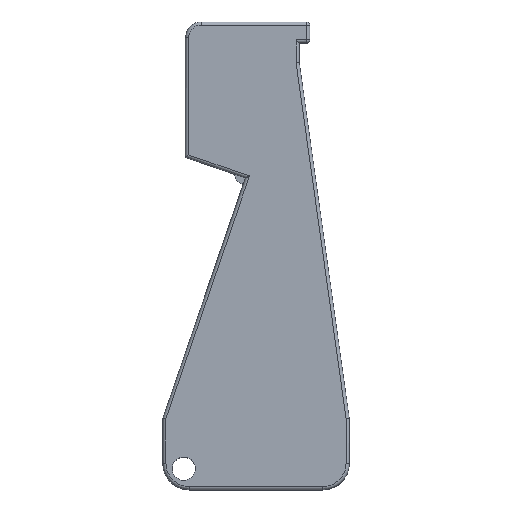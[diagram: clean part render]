
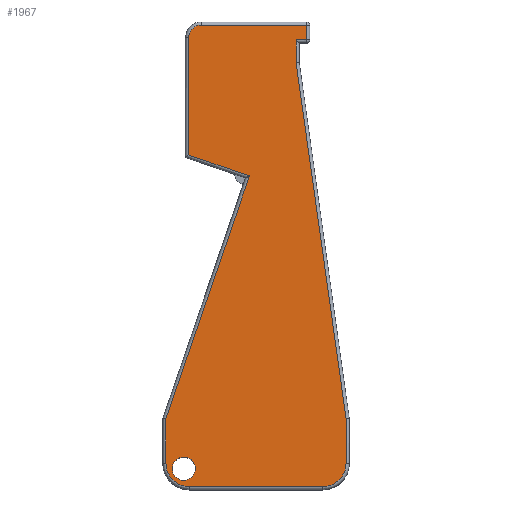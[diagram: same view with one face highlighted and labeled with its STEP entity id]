
A CAD part, top view. The second image highlights one B-rep face of the part: STEP entity #1967.
In plain terms, the highlighted planar face has unit normal (0, 0, 1).
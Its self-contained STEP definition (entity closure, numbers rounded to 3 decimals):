
#28=FACE_BOUND('',#312,.T.);
#45=CIRCLE('',#2107,2.2);
#49=CIRCLE('',#2113,2.2);
#53=CIRCLE('',#2125,1.2);
#60=CIRCLE('',#2145,1.1);
#109=PLANE('',#2144);
#196=FACE_OUTER_BOUND('',#311,.T.);
#311=EDGE_LOOP('',(#1517,#1518,#1519,#1520,#1521,#1522,#1523,#1524,#1525,
#1526,#1527,#1528,#1529,#1530));
#312=EDGE_LOOP('',(#1531));
#445=LINE('',#3011,#656);
#447=LINE('',#3020,#658);
#449=LINE('',#3030,#660);
#451=LINE('',#3042,#662);
#453=LINE('',#3051,#664);
#455=LINE('',#3057,#666);
#457=LINE('',#3060,#668);
#458=LINE('',#3063,#669);
#461=LINE('',#3072,#672);
#463=LINE('',#3084,#674);
#464=LINE('',#3088,#675);
#656=VECTOR('',#2384,10.);
#658=VECTOR('',#2392,10.);
#660=VECTOR('',#2402,10.);
#662=VECTOR('',#2416,10.);
#664=VECTOR('',#2428,10.);
#666=VECTOR('',#2434,10.);
#668=VECTOR('',#2438,10.);
#669=VECTOR('',#2441,10.);
#672=VECTOR('',#2450,10.);
#674=VECTOR('',#2464,10.);
#675=VECTOR('',#2469,10.);
#889=VERTEX_POINT('',#3008);
#890=VERTEX_POINT('',#3010);
#893=VERTEX_POINT('',#3017);
#894=VERTEX_POINT('',#3019);
#895=VERTEX_POINT('',#3023);
#898=VERTEX_POINT('',#3028);
#899=VERTEX_POINT('',#3032);
#901=VERTEX_POINT('',#3038);
#903=VERTEX_POINT('',#3044);
#906=VERTEX_POINT('',#3055);
#907=VERTEX_POINT('',#3062);
#909=VERTEX_POINT('',#3068);
#911=VERTEX_POINT('',#3074);
#913=VERTEX_POINT('',#3080);
#934=VERTEX_POINT('',#3149);
#1085=EDGE_CURVE('',#889,#890,#445,.T.);
#1089=EDGE_CURVE('',#893,#894,#447,.T.);
#1094=EDGE_CURVE('',#898,#895,#449,.T.);
#1097=EDGE_CURVE('',#895,#899,#45,.T.);
#1100=EDGE_CURVE('',#899,#901,#451,.T.);
#1103=EDGE_CURVE('',#901,#903,#49,.T.);
#1105=EDGE_CURVE('',#903,#893,#453,.T.);
#1108=EDGE_CURVE('',#906,#898,#455,.T.);
#1110=EDGE_CURVE('',#890,#906,#457,.T.);
#1111=EDGE_CURVE('',#894,#907,#458,.T.);
#1116=EDGE_CURVE('',#907,#909,#461,.T.);
#1119=EDGE_CURVE('',#909,#911,#53,.T.);
#1122=EDGE_CURVE('',#911,#913,#463,.T.);
#1124=EDGE_CURVE('',#913,#889,#464,.T.);
#1156=EDGE_CURVE('',#934,#934,#60,.T.);
#1517=ORIENTED_EDGE('',*,*,#1094,.F.);
#1518=ORIENTED_EDGE('',*,*,#1108,.F.);
#1519=ORIENTED_EDGE('',*,*,#1110,.F.);
#1520=ORIENTED_EDGE('',*,*,#1085,.F.);
#1521=ORIENTED_EDGE('',*,*,#1124,.F.);
#1522=ORIENTED_EDGE('',*,*,#1122,.F.);
#1523=ORIENTED_EDGE('',*,*,#1119,.F.);
#1524=ORIENTED_EDGE('',*,*,#1116,.F.);
#1525=ORIENTED_EDGE('',*,*,#1111,.F.);
#1526=ORIENTED_EDGE('',*,*,#1089,.F.);
#1527=ORIENTED_EDGE('',*,*,#1105,.F.);
#1528=ORIENTED_EDGE('',*,*,#1103,.F.);
#1529=ORIENTED_EDGE('',*,*,#1100,.F.);
#1530=ORIENTED_EDGE('',*,*,#1097,.F.);
#1531=ORIENTED_EDGE('',*,*,#1156,.T.);
#1967=ADVANCED_FACE('',(#196,#28),#109,.T.);
#2107=AXIS2_PLACEMENT_3D('',#3036,#2409,#2410);
#2113=AXIS2_PLACEMENT_3D('',#3048,#2423,#2424);
#2125=AXIS2_PLACEMENT_3D('',#3078,#2457,#2458);
#2144=AXIS2_PLACEMENT_3D('',#3148,#2525,#2526);
#2145=AXIS2_PLACEMENT_3D('',#3150,#2527,#2528);
#2384=DIRECTION('',(-1.,0.,0.));
#2392=DIRECTION('',(0.326,0.946,0.));
#2402=DIRECTION('',(0.,-1.,0.));
#2409=DIRECTION('center_axis',(0.,0.,
-1.));
#2410=DIRECTION('ref_axis',(0.707,-0.707,0.));
#2416=DIRECTION('',(-1.,0.,0.));
#2423=DIRECTION('center_axis',(0.,0.,
-1.));
#2424=DIRECTION('ref_axis',(-0.707,-0.707,0.));
#2428=DIRECTION('',(0.,1.,0.));
#2434=DIRECTION('',(0.139,-0.99,0.));
#2438=DIRECTION('',(0.,-1.,0.));
#2441=DIRECTION('',(-0.946,0.326,0.));
#2450=DIRECTION('',(0.,1.,0.));
#2457=DIRECTION('center_axis',(0.,0.,
-1.));
#2458=DIRECTION('ref_axis',(-0.707,0.707,0.));
#2464=DIRECTION('',(1.,0.,0.));
#2469=DIRECTION('',(0.,-1.,0.));
#2525=DIRECTION('center_axis',(0.,0.,
1.));
#2526=DIRECTION('ref_axis',(1.,0.,0.));
#2527=DIRECTION('center_axis',(0.,0.,
-1.));
#2528=DIRECTION('ref_axis',(-1.,0.,0.));
#3008=CARTESIAN_POINT('',(4.8,20.5,0.7));
#3010=CARTESIAN_POINT('',(3.8,20.5,0.7));
#3011=CARTESIAN_POINT('',(2.086,20.5,0.7));
#3017=CARTESIAN_POINT('',(-8.55,-15.45,0.7));
#3019=CARTESIAN_POINT('',(-0.618,7.586,0.7));
#3020=CARTESIAN_POINT('',(-5.79,-7.433,0.7));
#3023=CARTESIAN_POINT('',(8.55,-19.7,0.7));
#3028=CARTESIAN_POINT('',(8.55,-15.421,0.7));
#3030=CARTESIAN_POINT('',(8.55,-7.066,0.7));
#3032=CARTESIAN_POINT('',(6.35,-21.9,0.7));
#3036=CARTESIAN_POINT('Origin',(6.35,-19.7,0.7));
#3038=CARTESIAN_POINT('',(-6.35,-21.9,0.7));
#3042=CARTESIAN_POINT('',(4.461,-21.9,0.7));
#3044=CARTESIAN_POINT('',(-8.55,-19.7,0.7));
#3048=CARTESIAN_POINT('Origin',(-6.35,-19.7,0.7));
#3051=CARTESIAN_POINT('',(-8.55,-11.316,0.7));
#3055=CARTESIAN_POINT('',(3.8,18.377,0.7));
#3057=CARTESIAN_POINT('',(5.061,9.401,0.7));
#3060=CARTESIAN_POINT('',(3.8,10.884,0.7));
#3062=CARTESIAN_POINT('',(-6.4,9.577,0.7));
#3063=CARTESIAN_POINT('',(-2.068,8.085,0.7));
#3068=CARTESIAN_POINT('',(-6.4,20.7,0.7));
#3072=CARTESIAN_POINT('',(-6.4,4.434,0.7));
#3074=CARTESIAN_POINT('',(-5.2,21.9,0.7));
#3078=CARTESIAN_POINT('Origin',(-5.2,20.7,0.7));
#3080=CARTESIAN_POINT('',(4.8,21.9,0.7));
#3084=CARTESIAN_POINT('',(-3.314,21.9,0.7));
#3088=CARTESIAN_POINT('',(4.8,10.034,0.7));
#3148=CARTESIAN_POINT('Origin',(0.072,-0.432,0.7));
#3149=CARTESIAN_POINT('',(-7.95,-20.2,0.7));
#3150=CARTESIAN_POINT('Origin',(-6.85,-20.2,0.7));
